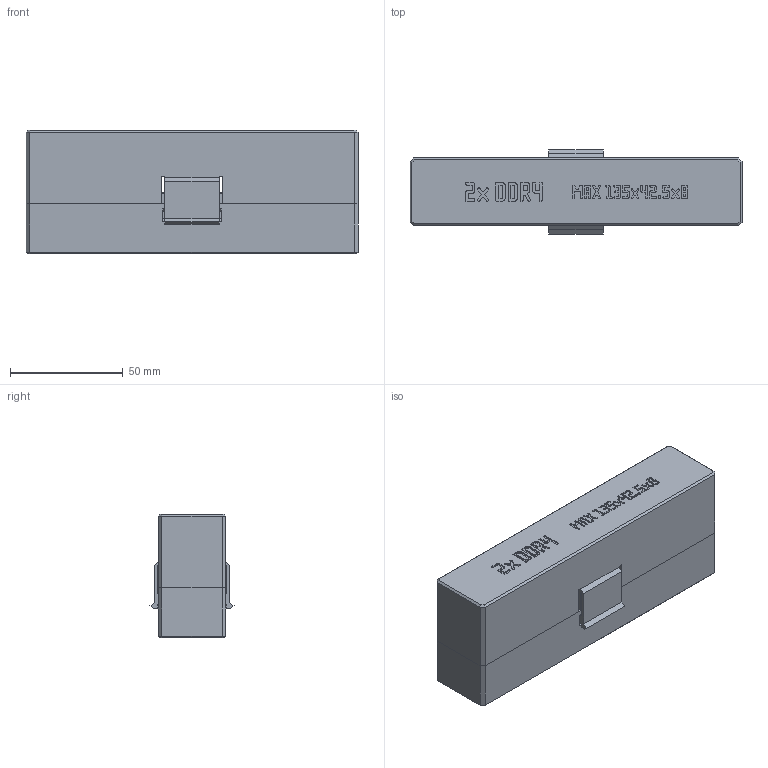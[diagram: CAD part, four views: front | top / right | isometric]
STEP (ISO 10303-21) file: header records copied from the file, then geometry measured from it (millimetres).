
FILE_DESCRIPTION(('Open CASCADE Model'),'2;1');
FILE_NAME('Open CASCADE Shape Model','2026-11-16T13:42:44',('Author'),( 'Open CASCADE'),'Open CASCADE STEP processor 8.0','build123d', 'Unknown');
FILE_SCHEMA(('AUTOMOTIVE_DESIGN { 1 0 10303 214 1 1 1 1 }'));
Length unit declared in the file: millimetre
Products named in the file (3): COMPOUND
Assembly tree (2 placements, depth 2):
  COMPOUND
    COMPOUND
    COMPOUND
Bounding box: 147 x 37.2 x 54.5 mm (x, y, z)
Volume: 84912.6 mm3; surface area: 67824 mm2
Topology: 2 solids, 2 shells, 3087 faces, 9081 edges, 6046 vertices
Faces by surface type: plane 3087
Entity records: 214816 total; most frequent: CARTESIAN_POINT 40123, DIRECTION 29679, LINE 23499, VECTOR 23499, ORIENTED_EDGE 18162, PCURVE 18162, DEFINITIONAL_REPRESENTATION 18162, EDGE_CURVE 9081
